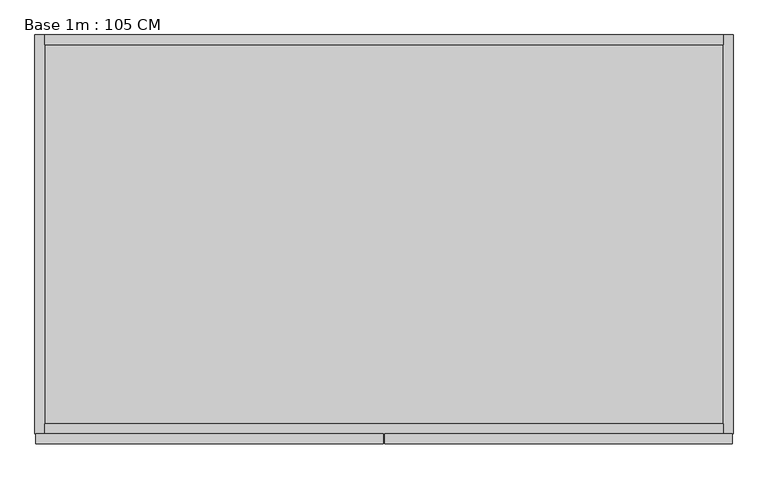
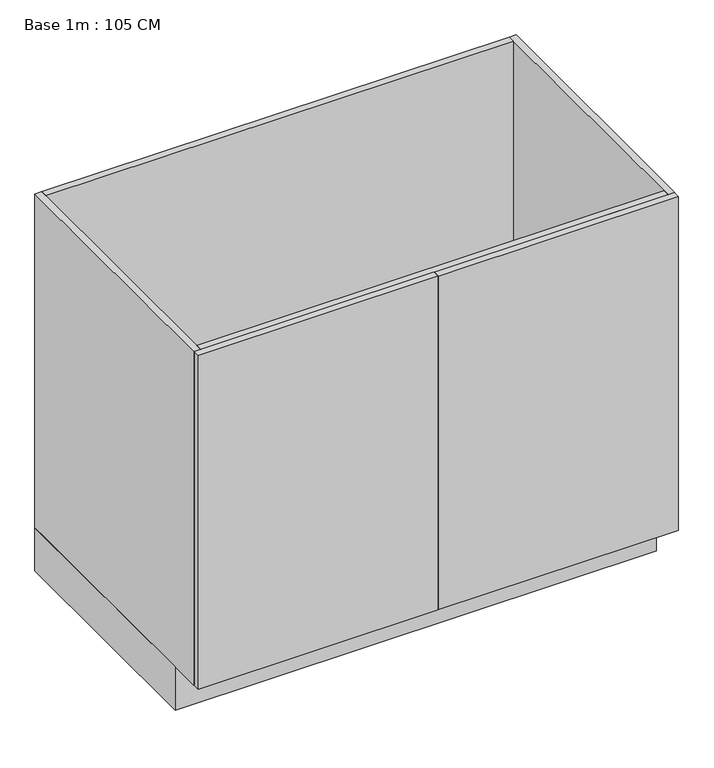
"""IFC4 building model written with IfcOpenShell, lengths in millimetres: furniture geometry, Base 1m : 105 CM."""

from ifc_helpers import new_model, si_unit, frame, origin, origin_with_axes, place, context, project, spatial, polyline, outline, extrude, source, transform, mapped, element, save


def base_1m_105_cm_66b4baac(model_context):
    return source(origin(), model_context, "Body", "SweptSolid", [
        extrude(outline(polyline([(568.2003264, -615.0), (45.7003264, -615.0), (45.7003264, -600.0), (568.2003264, -600.0), (568.2003264, -615.0)])), frame((0.0, 0.0, 100.0), z_axis=(0.0, 0.0, 1.0), x_axis=(1.0, 0.0, 0.0)), (0.0, 0.0, 1.0), 770.0),
        extrude(outline(polyline([(43.7003264, -615.0), (-478.7996736, -615.0), (-478.7996736, -600.0), (43.7003264, -600.0), (43.7003264, -615.0)])), frame((0.0, 0.0, 100.0), z_axis=(0.0, 0.0, 1.0), x_axis=(1.0, 0.0, 0.0)), (0.0, 0.0, 1.0), 770.0),
        extrude(outline(polyline([(554.7003264, -600.0), (-465.2996736, -600.0), (-465.2996736, -585.0), (554.7003264, -585.0), (554.7003264, -600.0)])), frame((0.0, 0.0, 770.0), z_axis=(0.0, 0.0, 1.0), x_axis=(1.0, 0.0, 0.0)), (0.0, 0.0, 1.0), 100.0),
        extrude(outline(polyline([(-465.2996736, -15.0), (554.7003264, -15.0), (554.7003264, -600.0), (-465.2996736, -600.0), (-465.2996736, -15.0)])), frame((0.0, 0.0, 100.0), z_axis=(0.0, 0.0, 1.0), x_axis=(1.0, 0.0, 0.0)), (0.0, 0.0, 1.0), 15.0),
        extrude(outline(polyline([(569.7003264, 0.0), (569.7003264, -530.0), (-480.2996736, -530.0), (-480.2996736, 0.0), (569.7003264, 0.0)])), origin_with_axes(), (0.0, 0.0, 1.0), 100.0),
        extrude(outline(polyline([(554.7003264, 0.0), (554.7003264, -15.0), (-465.2996736, -15.0), (-465.2996736, 0.0), (554.7003264, 0.0)])), frame((0.0, 0.0, 100.0), z_axis=(0.0, 0.0, 1.0), x_axis=(1.0, 0.0, 0.0)), (0.0, 0.0, 1.0), 770.0),
        extrude(outline(polyline([(-465.2996736, 0.0), (-465.2996736, -600.0), (-480.2996736, -600.0), (-480.2996736, 0.0), (-465.2996736, 0.0)])), frame((0.0, 0.0, 100.0), z_axis=(0.0, 0.0, 1.0), x_axis=(1.0, 0.0, 0.0)), (0.0, 0.0, 1.0), 770.0),
        extrude(outline(polyline([(554.7003264, 0.0), (569.7003264, 0.0), (569.7003264, -600.0), (554.7003264, -600.0), (554.7003264, 0.0)])), frame((0.0, 0.0, 100.0), z_axis=(0.0, 0.0, 1.0), x_axis=(1.0, 0.0, 0.0)), (0.0, 0.0, 1.0), 770.0),
    ])


if __name__ == "__main__":
    model = new_model("IFC4")
    model_context = context("Model", 3, world=origin())
    ifc_project = project(units=[si_unit("LENGTHUNIT", "METRE", prefix="MILLI")], contexts=[model_context])
    site = spatial("IfcSite", under=ifc_project)
    building = spatial("IfcBuilding", under=site)
    placement = place(None, origin())
    base_1m_105_cm_shape = base_1m_105_cm_66b4baac(model_context)
    element("IfcFurniture", 1, ObjectType="Base 1m : 105 CM", at=placement, inside=building, context=model_context, shape_type="MappedRepresentation", body=[
        mapped(base_1m_105_cm_shape, transform((0.0, 0.0, 0.0), x_axis=(1.0, 0.0, 0.0), y_axis=(0.0, 1.0, 0.0), z_axis=(0.0, 0.0, 1.0))),
    ])
    save(model, "model.ifc")
